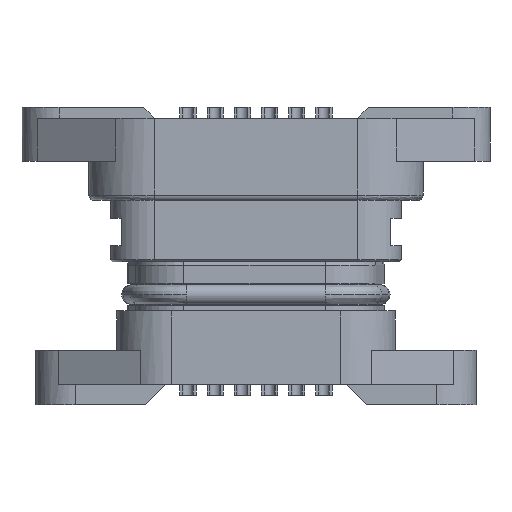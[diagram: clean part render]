
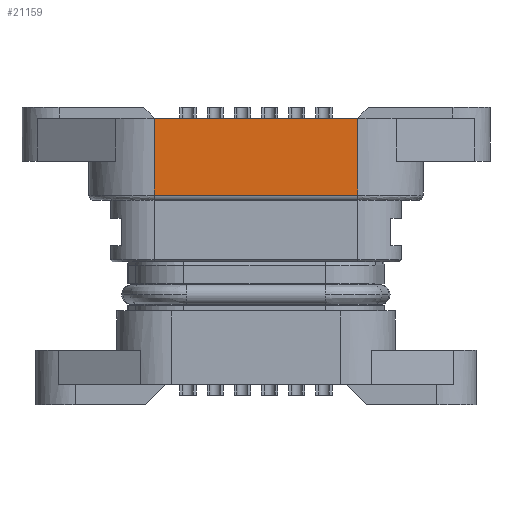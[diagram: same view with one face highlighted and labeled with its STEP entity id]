
A CAD part, front view. The second image highlights one B-rep face of the part: STEP entity #21159.
In plain terms, the highlighted planar face has unit normal (0, -1, 0) as drawn and (0, 1, 0) by its records, which use the part's own axes.
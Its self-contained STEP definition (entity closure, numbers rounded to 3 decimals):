
#16748=DIRECTION('',(0.,0.,-1.));
#16749=VECTOR('',#16748,7.05);
#16750=CARTESIAN_POINT('',(-9.35,9.2,-2.95));
#16751=LINE('',#16750,#16749);
#16760=DIRECTION('',(-1.,0.,0.));
#16761=VECTOR('',#16760,18.7);
#16762=CARTESIAN_POINT('',(9.35,9.2,-10.));
#16763=LINE('',#16762,#16761);
#16764=DIRECTION('',(0.,0.,1.));
#16765=VECTOR('',#16764,7.05);
#16766=CARTESIAN_POINT('',(9.35,9.2,-10.));
#16767=LINE('',#16766,#16765);
#17490=DIRECTION('',(-1.,0.,0.));
#17491=VECTOR('',#17490,18.7);
#17492=CARTESIAN_POINT('',(9.35,9.2,-2.95));
#17493=LINE('',#17492,#17491);
#19635=CARTESIAN_POINT('',(-9.35,9.2,-2.95));
#19637=VERTEX_POINT('',#19635);
#20095=CARTESIAN_POINT('',(-9.35,9.2,-10.));
#20096=VERTEX_POINT('',#20095);
#20375=CARTESIAN_POINT('',(9.35,9.2,-10.));
#20376=CARTESIAN_POINT('',(9.35,9.2,-2.95));
#20377=VERTEX_POINT('',#20375);
#20378=VERTEX_POINT('',#20376);
#21146=CARTESIAN_POINT('',(-9.35,9.2,-2.95));
#21147=DIRECTION('',(0.,-1.,0.));
#21148=DIRECTION('',(0.,0.,-1.));
#21149=AXIS2_PLACEMENT_3D('',#21146,#21147,#21148);
#21150=PLANE('',#21149);
#21151=ORIENTED_EDGE('',*,*,#21133,.T.);
#21152=ORIENTED_EDGE('',*,*,#20989,.F.);
#21154=ORIENTED_EDGE('',*,*,#21153,.T.);
#21156=ORIENTED_EDGE('',*,*,#21155,.T.);
#21157=EDGE_LOOP('',(#21151,#21152,#21154,#21156));
#21158=FACE_OUTER_BOUND('',#21157,.F.);
#21159=ADVANCED_FACE('',(#21158),#21150,.F.);
#20989=EDGE_CURVE('',#20377,#20096,#16763,.T.);
#21133=EDGE_CURVE('',#19637,#20096,#16751,.T.);
#21153=EDGE_CURVE('',#20377,#20378,#16767,.T.);
#21155=EDGE_CURVE('',#20378,#19637,#17493,.T.);
